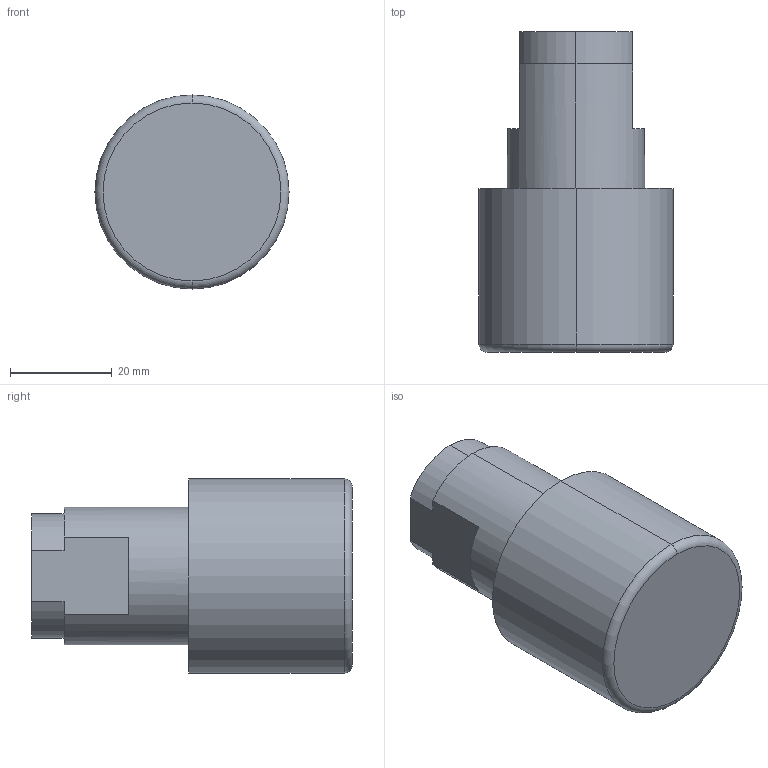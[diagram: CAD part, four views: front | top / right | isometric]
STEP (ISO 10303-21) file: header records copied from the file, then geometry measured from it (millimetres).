
FILE_DESCRIPTION (( 'STEP AP214' ), '1' );
FILE_NAME ('TPLP15.STEP', '2017-06-05T14:40:43', ( '' ), ( '' ), 'SwSTEP 2.0', 'SolidWorks 2015', '' );
FILE_SCHEMA (( 'AUTOMOTIVE_DESIGN' ));
Length unit declared in the file: inch
Products named in the file (15): NE5025NP52; POLYBAG 6 X 8; 900125 STKR TPLP PART NUMBER; 980292 spring com taper; TPLP15LOWERHOUSING; TPLP15BACKPLATE; 980309; 960012 CARDBOARD BOX 3 X 3 X 3; TPLP15PISTON; GASKETORING; 980305; 900062 INSTALLATION-OPER SPECS; CAP, PLUG INTERNAL  3-8 NPT; TPLP15UPPERHOUSING; TPLP15
Assembly tree (13 placements, depth 2):
  POLYBAG 6 X 8
  900125 STKR TPLP PART NUMBER
  960012 CARDBOARD BOX 3 X 3 X 3
  900062 INSTALLATION-OPER SPECS
  CAP, PLUG INTERNAL  3-8 NPT
Bounding box: 38.1 x 62.95 x 38.1 mm (x, y, z)
Volume: 38305 mm3; surface area: 27051.2 mm2
Topology: 13 solids, 13 shells, 205 faces, 510 edges, 324 vertices
Faces by surface type: plane 81, cylinder 74, torus 44, bspline 4, cone 2
Entity records: 9195 total; most frequent: CARTESIAN_POINT 3997, DIRECTION 1052, ORIENTED_EDGE 920, EDGE_CURVE 460, AXIS2_PLACEMENT_3D 419, VERTEX_POINT 296, CIRCLE 230, LINE 214
